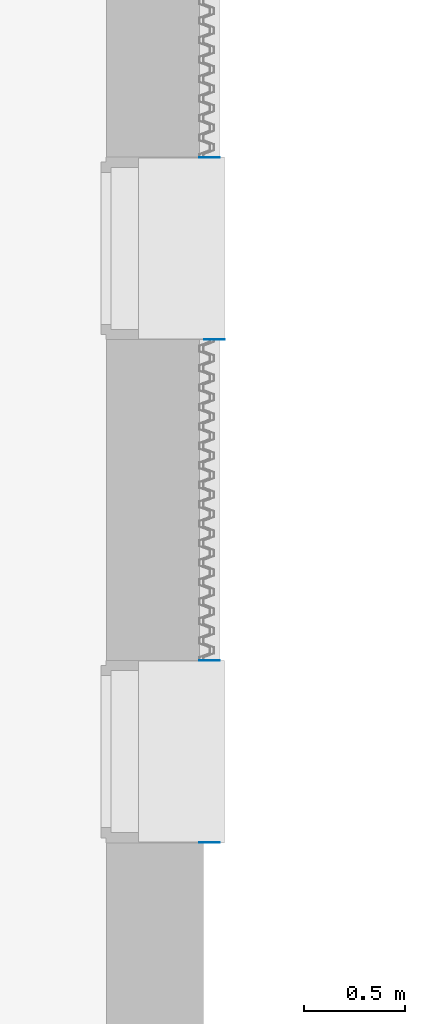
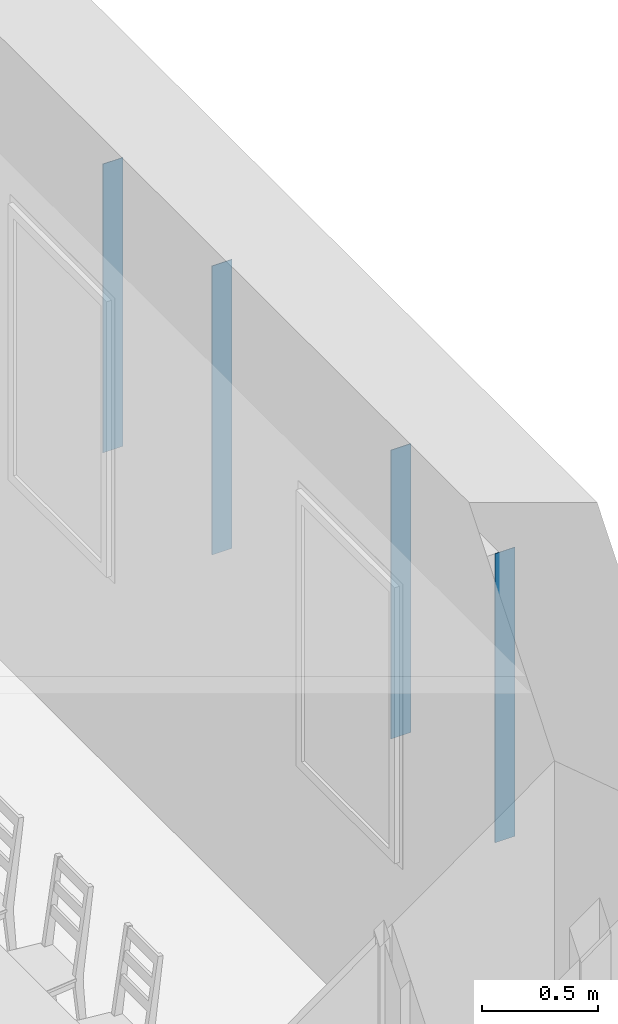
# One storey, part 2 of 91: 4 columns.
"""IFC2X3 building model written with IfcOpenShell, lengths in metres."""

from ifc_helpers import new_model, entity, si_unit, converted_unit, derived_unit, money_unit, direction, frame, origin_with_axes, origin_2d_with_axis, place, context, subcontext, project, spatial, rectangle, extrude, material, type_object, element, save


model = new_model("IFC2X3")

# Units and contexts
model_context = context("Model", 3, precision=1e-05, world=origin_with_axes(), true_north=direction((0.0, 1.0)))
body_context = subcontext(model_context, "Body", "Model", "MODEL_VIEW")
ifc_project = project(units=[si_unit("LENGTHUNIT", "METRE"), si_unit("AREAUNIT", "SQUARE_METRE"), si_unit("VOLUMEUNIT", "CUBIC_METRE"), converted_unit("PLANEANGLEUNIT", "DEGREE", entity("IfcPlaneAngleMeasure", 0.0174532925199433), si_unit("PLANEANGLEUNIT", "RADIAN"), dimensions=[0, 0, 0, 0, 0, 0, 0]), money_unit("EUR"), converted_unit("TIMEUNIT", "Year", entity("IfcTimeMeasure", 31557600.0), si_unit("TIMEUNIT", "SECOND"), dimensions=[0, 0, 1, 0, 0, 0, 0]), si_unit("MASSUNIT", "GRAM", prefix="KILO"), si_unit("THERMODYNAMICTEMPERATUREUNIT", "DEGREE_CELSIUS"), si_unit("LUMINOUSINTENSITYUNIT", "LUMEN"), si_unit("ENERGYUNIT", "JOULE", prefix="MEGA"), derived_unit("THERMALCONDUCTANCEUNIT", [(si_unit("POWERUNIT", "WATT"), 1), (si_unit("LENGTHUNIT", "METRE"), -1), (si_unit("THERMODYNAMICTEMPERATUREUNIT", "KELVIN"), -1)]), derived_unit("SPECIFICHEATCAPACITYUNIT", [(si_unit("ENERGYUNIT", "JOULE"), 1), (si_unit("MASSUNIT", "GRAM", prefix="KILO"), -1), (si_unit("THERMODYNAMICTEMPERATUREUNIT", "KELVIN"), -1)]), derived_unit("MASSDENSITYUNIT", [(si_unit("MASSUNIT", "GRAM", prefix="KILO"), 1), (si_unit("VOLUMEUNIT", "CUBIC_METRE"), -1)])], contexts=[model_context])

# Site, building, storey
site_placement = place(None, origin_with_axes())
site = spatial("IfcSite", under=ifc_project, at=site_placement, Name="Site", CompositionType="ELEMENT")
building_placement = place(site_placement, origin_with_axes())
building = spatial("IfcBuilding", under=site, at=building_placement, Name="Bâtiment", CompositionType="ELEMENT")
storey_placement = place(building_placement, origin_with_axes())
storey = spatial("IfcBuildingStorey", under=building, at=storey_placement, Name="RDC", CompositionType="ELEMENT", Elevation=0.0)

# Columns
ifc_material = material(Name="Aluminium")
column_type = type_object("IfcColumnType", Name="Aluminium 100 x 3", PredefinedType="NOTDEFINED")
column_1_placement = place(storey_placement, frame((60.30799999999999, -25.65072254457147, 0.9806266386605), z_axis=(0.0, 0.0, 1.0), x_axis=(1.0, 0.0, 0.0)))
element("IfcColumn", 1, at=column_1_placement, inside=storey, type_object=column_type, material=ifc_material, Name="PotB-005", context=body_context, shape_type="SweptSolid", body=[
    extrude(rectangle(XDim=0.1, YDim=0.003, at=origin_2d_with_axis()), frame((0.0, 0.0, 0.0), z_axis=(0.0, 0.0, -1.0), x_axis=(-1.0, 0.0, 0.0)), (0.0, 0.0, -1.0), 1.5193733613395),
])
for number, where, z_axis, x_axis in (
    (2, (60.30800000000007, -24.75372254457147, 0.9821266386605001), (0.0, 0.0, 1.0), (-1.0, 0.0, 0.0)),
    (3, (60.30800000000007, -22.27372254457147, 0.9821266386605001), (0.0, 0.0, 1.0), (-1.0, 0.0, 0.0)),
):
    element("IfcColumn", number, at=place(storey_placement, frame(where, z_axis=z_axis, x_axis=x_axis)), inside=storey, type_object=column_type, material=ifc_material, Name="PotB-005", context=body_context, shape_type="SweptSolid", body=[
        extrude(rectangle(XDim=0.1, YDim=0.003, at=origin_2d_with_axis()), origin_with_axes(), (0.0, 0.0, 1.0), 1.5178733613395),
    ])
column_2_placement = place(storey_placement, frame((60.33299999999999, -23.17072254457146, 0.9806266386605), z_axis=(0.0, 0.0, 1.0), x_axis=(1.0, 0.0, 0.0)))
element("IfcColumn", 4, at=column_2_placement, inside=storey, type_object=column_type, material=ifc_material, Name="PotB-005", context=body_context, shape_type="SweptSolid", body=[
    extrude(rectangle(XDim=0.1, YDim=0.003, at=origin_2d_with_axis()), frame((0.0, 0.0, 0.0), z_axis=(0.0, 0.0, -1.0), x_axis=(-1.0, 0.0, 0.0)), (0.0, 0.0, -1.0), 1.5193733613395),
])

save(model, "model.ifc")
